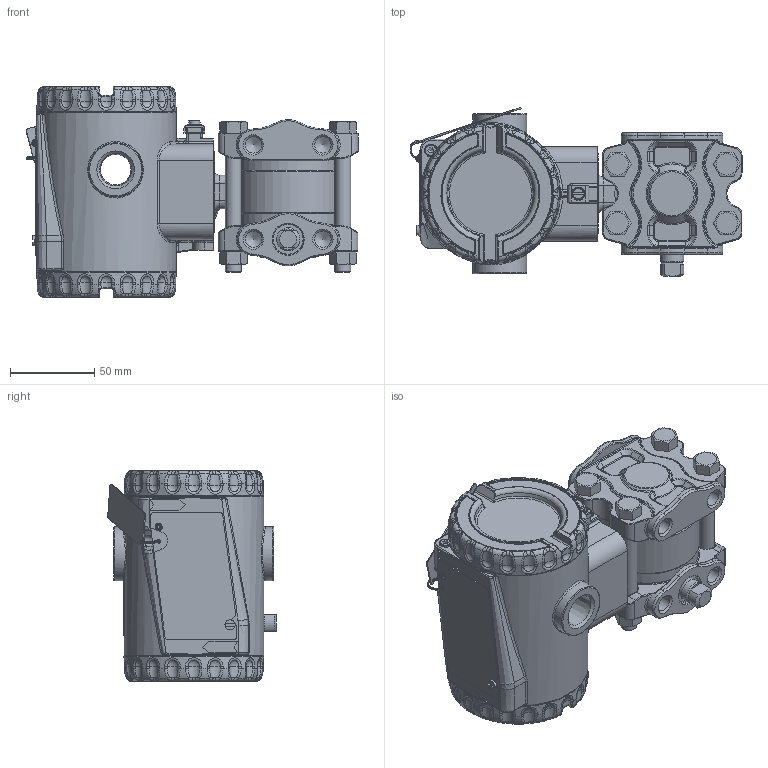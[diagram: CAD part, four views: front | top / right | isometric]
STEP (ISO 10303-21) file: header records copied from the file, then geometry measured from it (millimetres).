
FILE_DESCRIPTION(/* description */ (''),/* implementation_level */ '2;1');
FILE_NAME(/* name */ 'F:\Area\Desenvolvimento_2\Projects\Sensor\projetos\LD400-3d\dimensionais 3D clientes\LD400A4 1-4NPT sem purga.stp',/* time_stamp */ '2023-02-01T17:55:45-03:00',/* author */ ('inventor02'),/* organization */ (''),/* preprocessor_version */ 'ST-DEVELOPER v17',/* originating_system */ 'Autodesk Inventor 2019',/* authorisation */ '');
FILE_SCHEMA (('CONFIG_CONTROL_DESIGN'));
Products named in the file (29): LD400A4 1-4NPT sem purga; Carcaça 400 com tampas e plaqueta sem letras; 101-D-0845-05 carcaça LD400 sem letras; 101-B-3614-03-tampa 400 sem letras; Tampa visor 400 montada sem letras; 101-B-3612-05 tampa visor 400 sem letras; 101-A-6107; oring 2034; 00034775-0; WHW_250; DIN 915 - M6 x 10; Chapa aterramento externo; 201-A-1771-02 inserto terra recartilhado; AS 1969 - ST4,2; ISO 1207 - M4 x 8; ANSI B18.3.1M - M4x0,7 x 8; Subconjunto plaqueta 400; plaqueta 400 em branco; Parafuso da Plaqueta; Rebite da Plaqueta; 096-A-0169-03; 101-A-0502-01; manometrico standard fx4 sem purga; Flange manometrico standard; flange diferencial std sem purga; bujao 1-4NPT; involucro fx4 apos a usinagem final; Paraf. 3-8 x 16 UNC; Porca 3-8 x 16 UNC
Assembly tree (35 placements, depth 4):
  LD400A4 1-4NPT sem purga
    Carcaça 400 com tampas e plaqueta sem letras
      101-D-0845-05 carcaça LD400 sem letras
      101-B-3614-03-tampa 400 sem letras
      Tampa visor 400 montada sem letras
        101-B-3612-05 tampa visor 400 sem letras
        101-A-6107
        oring 2034
        00034775-0
        WHW_250
      DIN 915 - M6 x 10
      Chapa aterramento externo
      201-A-1771-02 inserto terra recartilhado
      AS 1969 - ST4,2
      ISO 1207 - M4 x 8
      ANSI B18.3.1M - M4x0,7 x 8  x2
      Subconjunto plaqueta 400
        plaqueta 400 em branco
        Parafuso da Plaqueta
        Rebite da Plaqueta
        096-A-0169-03
        101-A-0502-01
    manometrico standard fx4 sem purga
      Flange manometrico standard
      flange diferencial std sem purga
      bujao 1-4NPT
      involucro fx4 apos a usinagem final
      Paraf. 3-8 x 16 UNC  x4
      Porca 3-8 x 16 UNC  x4
Bounding box: 197.25 x 100.09 x 125 mm (x, y, z)
Volume: 597752.7 mm3; surface area: 230428.7 mm2
Topology: 31 solids, 31 shells, 2637 faces, 6393 edges, 3803 vertices
Faces by surface type: bspline 667, plane 653, cylinder 609, torus 451, cone 195, sphere 62
Full cylindrical faces by diameter (mm): 2 x2, 2.1 x1, 2.2 x1, 2.459 x3, 2.7 x1, 3 x2, 3.242 x3, 3.571 x1, 4 x4, 4.3 x2, 4.4 x1, 4.917 x1, 5.5 x2, 6 x2, 6.1 x2, 6.2 x1, 7 x2, 7.6 x2, 7.798 x4, 9.525 x4, 9.728 x8, 10.5 x8, 10.719 x2, 13.8 x1, 14 x1, 18.3 x2, 18.5 x2, 32 x2, 32.1 x1, 34.6 x1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
Entity records: 96824 total; most frequent: CARTESIAN_POINT 38530, ORIENTED_EDGE 12274, DIRECTION 11760, EDGE_CURVE 6137, AXIS2_PLACEMENT_3D 5014, VERTEX_POINT 3677, CIRCLE 2888, EDGE_LOOP 2640
